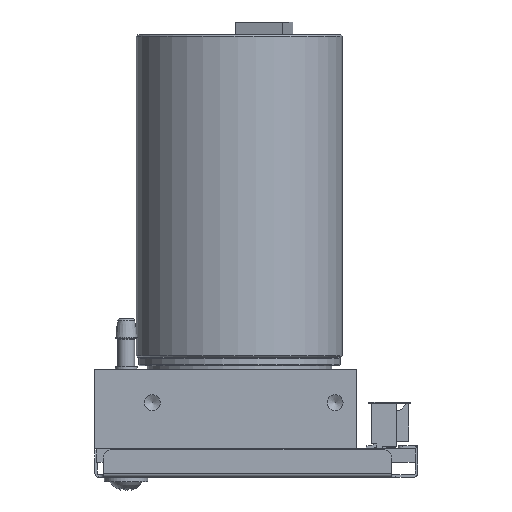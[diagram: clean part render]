
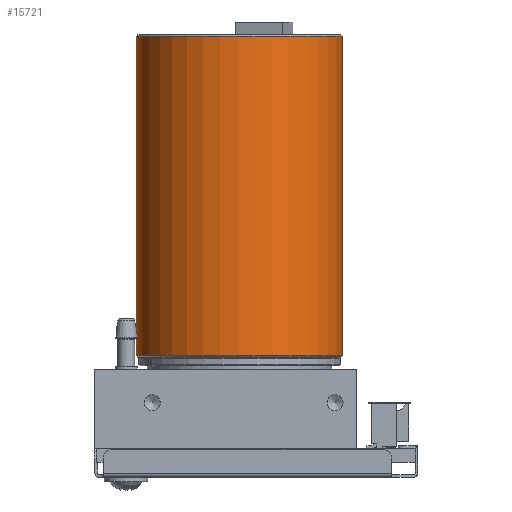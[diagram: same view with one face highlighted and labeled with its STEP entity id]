
A CAD part, front view. The second image highlights one B-rep face of the part: STEP entity #15721.
In plain terms, the highlighted cylindrical face has radius 12.3 mm (diameter 24.6 mm), a full revolution.
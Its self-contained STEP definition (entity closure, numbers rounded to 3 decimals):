
#227=CYLINDRICAL_SURFACE('',#22815,12.3);
#571=CIRCLE('',#22816,12.3);
#572=CIRCLE('',#22817,12.3);
#4817=ORIENTED_EDGE('',*,*,#6982,.T.);
#4818=ORIENTED_EDGE('',*,*,#6983,.T.);
#6982=EDGE_CURVE('',#8441,#8441,#571,.F.);
#6983=EDGE_CURVE('',#8442,#8442,#572,.T.);
#8441=VERTEX_POINT('',#31489);
#8442=VERTEX_POINT('',#31491);
#13063=EDGE_LOOP('',(#4817));
#13064=EDGE_LOOP('',(#4818));
#14158=FACE_BOUND('',#13063,.T.);
#14159=FACE_BOUND('',#13064,.T.);
#15721=ADVANCED_FACE('',(#14158,#14159),#227,.T.);
#22815=AXIS2_PLACEMENT_3D('',#31487,#27000,#27001);
#22816=AXIS2_PLACEMENT_3D('',#31488,#27002,#27003);
#22817=AXIS2_PLACEMENT_3D('',#31490,#27004,#27005);
#27000=DIRECTION('',(0.,0.,-1.));
#27001=DIRECTION('',(-1.,0.,0.));
#27002=DIRECTION('',(0.,0.,-1.));
#27003=DIRECTION('',(-1.,0.,0.));
#27004=DIRECTION('',(0.,0.,-1.));
#27005=DIRECTION('',(-1.,0.,0.));
#31487=CARTESIAN_POINT('',(0.,0.,38.5));
#31488=CARTESIAN_POINT('',(0.,0.,0.2));
#31489=CARTESIAN_POINT('',(-12.3,0.,0.2));
#31490=CARTESIAN_POINT('',(0.,0.,38.3));
#31491=CARTESIAN_POINT('',(-12.3,0.,38.3));
